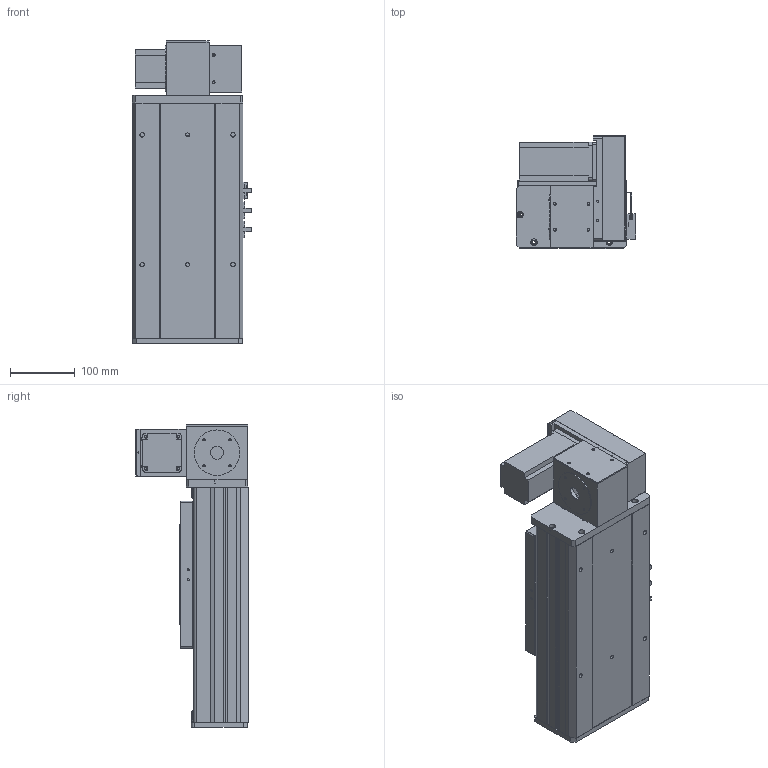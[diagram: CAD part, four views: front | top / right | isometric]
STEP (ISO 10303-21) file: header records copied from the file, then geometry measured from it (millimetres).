
FILE_DESCRIPTION (( 'STEP AP203' ), '1' );
FILE_NAME ('Y170CB-D105-S50-UR-P400W.STEP', '2020-02-20T03:31:47', ( '微软用户' ), ( '微软中国' ), 'SwSTEP 2.0', 'SolidWorks 2017', '' );
FILE_SCHEMA (( 'CONFIG_CONTROL_DESIGN' ));
Length unit declared in the file: millimetre
Products named in the file (18): --70CB --喘謫眊楊擘啣-; Y1埴倛裔; 70CB-耜裔啣-; 17B-耜蚾蟀諉啣----; 70C--詩湍揤踡え-; 00B-俋欶BM--163; 70CB--耜裔; 70B喘謫眊----; 70C-雄赽釱-奻-; B-源倛裔啣; Y170CB-D105-S50-UR-P400W; 0C--雄赽釱俋欶-170; 0B-萇儂楊擘啣; 70CB-詩湍--; san松下电机400不带刹车----; Y100-135俋离換覜ん--; 70CB-掛极-; Y170CB-陔俋离換覜結え---
Assembly tree (21 placements, depth 2):
  Y170CB-D105-S50-UR-P400W
    B-源倛裔啣
    0B-萇儂楊擘啣
    san松下电机400不带刹车----
    70CB-掛极-
    --70CB --喘謫眊楊擘啣-
    70CB-耜裔啣-  x2
    70C--詩湍揤踡え-  x2
    70CB--耜裔
    70C-雄赽釱-奻-
    0C--雄赽釱俋欶-170
    70CB-詩湍--
    Y100-135俋离換覜ん--  x3
    Y170CB-陔俋离換覜結え---
    Y1埴倛裔
    17B-耜蚾蟀諉啣----
    00B-俋欶BM--163
    70B喘謫眊----
Bounding box: 183.5 x 174 x 466 mm (x, y, z)
Volume: 2799423.1 mm3; surface area: 981714 mm2
Topology: 21 solids, 21 shells, 967 faces, 2573 edges, 1706 vertices
Faces by surface type: cylinder 481, plane 462, cone 24
Entity records: 30576 total; most frequent: CARTESIAN_POINT 5556, DIRECTION 4970, ORIENTED_EDGE 4628, EDGE_CURVE 2314, AXIS2_PLACEMENT_3D 1808, VERTEX_POINT 1536, VECTOR 1354, LINE 1354
